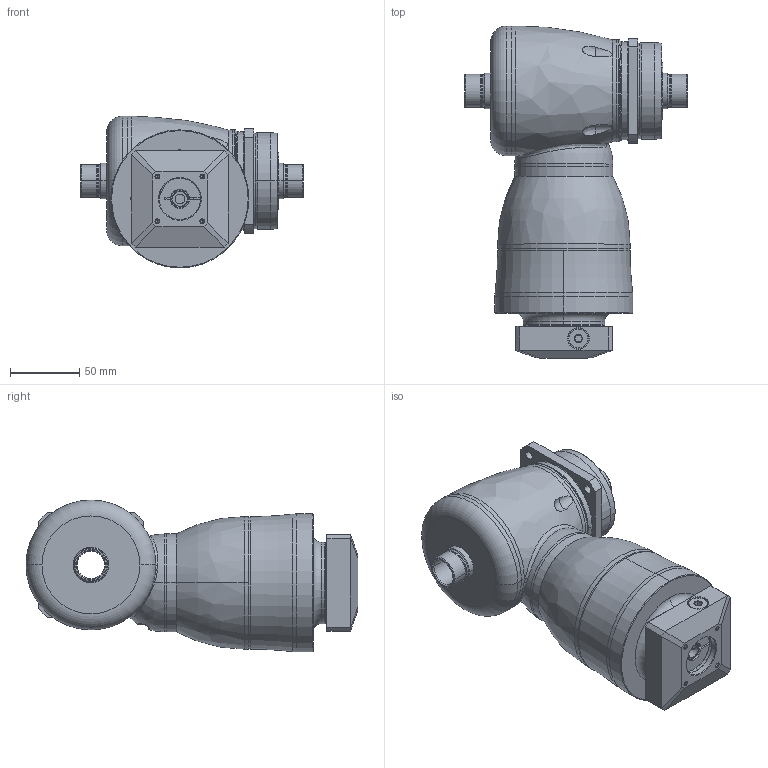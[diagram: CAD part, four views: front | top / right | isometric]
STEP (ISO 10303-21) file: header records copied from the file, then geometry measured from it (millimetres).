
FILE_DESCRIPTION((''),'2;1');
FILE_NAME('KF075_S4_2ST_11-P0409200101_ASM','2016-07-22T',('d01943'),(''),'PRO/ENGINEER BY PARAMETRIC TECHNOLOGY CORPORATION, 2008410','PRO/ENGINEER BY PARAMETRIC TECHNOLOGY CORPORATION, 2008410','');
FILE_SCHEMA(('CONFIG_CONTROL_DESIGN'));
Length unit declared in the file: millimetre
Products named in the file (11): P1008300002; P1804300001; P0914300001; P1315300001; P1007300001; P1317300101; P0409200101; P0503200005; P0912201001; 21711410012; KF075_S4_2ST_11-P0409200101_ASM
Assembly tree (10 placements, depth 2):
  KF075_S4_2ST_11-P0409200101_ASM
    P1008300002
    P1804300001
    P0914300001
    P1315300001
    P1007300001
    P1317300101
    P0409200101
    P0503200005
    P0912201001
    21711410012
Bounding box: 161 x 240.5 x 110 mm (x, y, z)
Volume: 1341174.1 mm3; surface area: 219854.9 mm2
Topology: 11 solids, 11 shells, 508 faces, 1163 edges, 691 vertices
Faces by surface type: cylinder 169, cone 122, plane 90, torus 76, bspline 49, sphere 2
Entity records: 21897 total; most frequent: CARTESIAN_POINT 10400, DIRECTION 2502, ORIENTED_EDGE 2266, EDGE_CURVE 1133, AXIS2_PLACEMENT_3D 1071, VERTEX_POINT 685, CIRCLE 591, EDGE_LOOP 576
